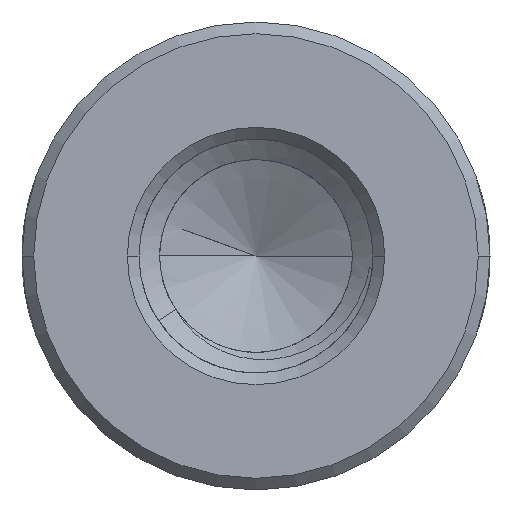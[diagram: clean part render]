
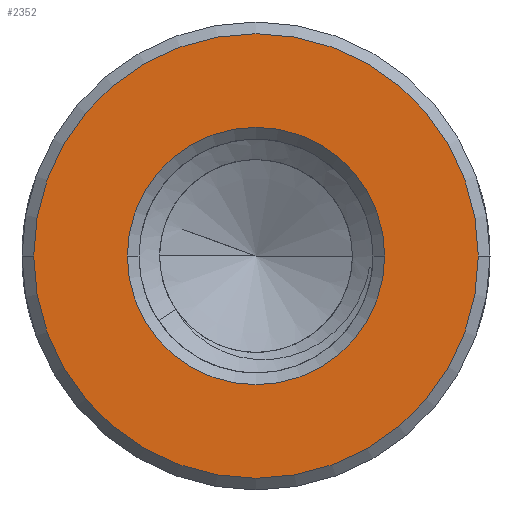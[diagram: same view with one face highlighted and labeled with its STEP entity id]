
A CAD part, front view. The second image highlights one B-rep face of the part: STEP entity #2352.
In plain terms, the highlighted planar face has unit normal (0, -1, 0).
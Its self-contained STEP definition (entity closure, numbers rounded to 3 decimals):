
#1=CARTESIAN_POINT('',(0.,-50.,0.));
#2=DIRECTION('',(0.,-1.,0.));
#3=DIRECTION('',(-1.,0.,0.));
#4=AXIS2_PLACEMENT_3D('',#1,#2,#3);
#6=CARTESIAN_POINT('',(0.,-50.,0.));
#7=DIRECTION('',(0.,-1.,0.));
#8=DIRECTION('',(1.,0.,0.));
#9=AXIS2_PLACEMENT_3D('',#6,#7,#8);
#11=CARTESIAN_POINT('',(0.,-50.,0.));
#12=DIRECTION('',(0.,1.,0.));
#13=DIRECTION('',(-1.,0.,0.));
#14=AXIS2_PLACEMENT_3D('',#11,#12,#13);
#16=CARTESIAN_POINT('',(0.,-50.,0.));
#17=DIRECTION('',(0.,1.,0.));
#18=DIRECTION('',(1.,0.,0.));
#19=AXIS2_PLACEMENT_3D('',#16,#17,#18);
#2193=CARTESIAN_POINT('',(-5.7,-50.,0.));
#2194=CARTESIAN_POINT('',(5.7,-50.,0.));
#2195=VERTEX_POINT('',#2193);
#2196=VERTEX_POINT('',#2194);
#2326=CARTESIAN_POINT('',(-3.3,-50.,0.));
#2327=CARTESIAN_POINT('',(3.3,-50.,0.));
#2328=VERTEX_POINT('',#2326);
#2329=VERTEX_POINT('',#2327);
#2335=CARTESIAN_POINT('',(0.,-50.,0.));
#2336=DIRECTION('',(0.,1.,0.));
#2337=DIRECTION('',(1.,0.,0.));
#2338=AXIS2_PLACEMENT_3D('',#2335,#2336,#2337);
#2339=PLANE('',#2338);
#2341=ORIENTED_EDGE('',*,*,#2340,.F.);
#2343=ORIENTED_EDGE('',*,*,#2342,.F.);
#2344=EDGE_LOOP('',(#2341,#2343));
#2345=FACE_OUTER_BOUND('',#2344,.F.);
#2347=ORIENTED_EDGE('',*,*,#2346,.F.);
#2349=ORIENTED_EDGE('',*,*,#2348,.F.);
#2350=EDGE_LOOP('',(#2347,#2349));
#2351=FACE_BOUND('',#2350,.F.);
#2352=ADVANCED_FACE('',(#2345,#2351),#2339,.F.);
#5=CIRCLE('',#4,5.7);
#10=CIRCLE('',#9,5.7);
#15=CIRCLE('',#14,3.3);
#20=CIRCLE('',#19,3.3);
#2340=EDGE_CURVE('',#2195,#2196,#5,.T.);
#2342=EDGE_CURVE('',#2196,#2195,#10,.T.);
#2346=EDGE_CURVE('',#2328,#2329,#15,.T.);
#2348=EDGE_CURVE('',#2329,#2328,#20,.T.);
